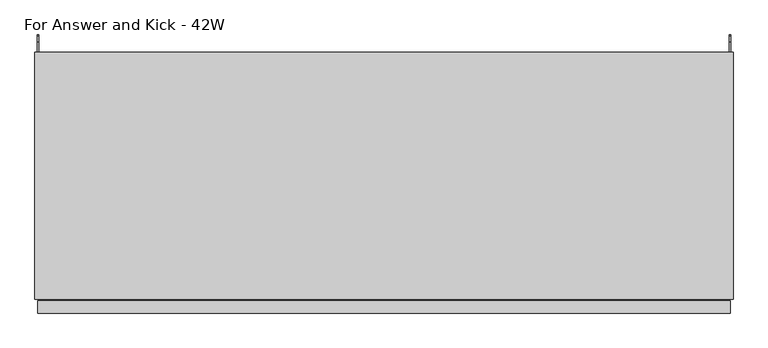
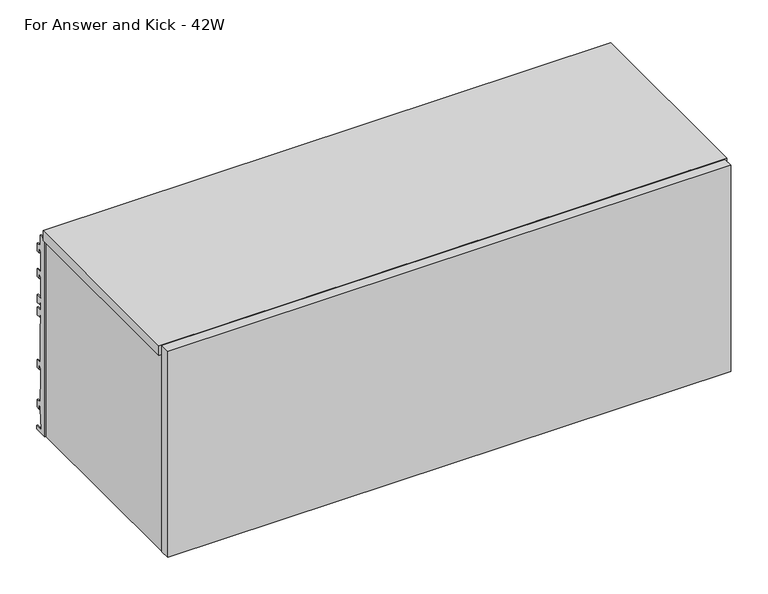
"""IFC4 building model written with IfcOpenShell, lengths in millimetres: furniture geometry, Steelcase - Universal Storage - Over the Case Bin - Flat Front : For Answer and Kick - 42W."""

from ifc_helpers import new_model, si_unit, frame, origin, place, context, project, spatial, polyline, outline, extrude, source, transform, mapped, element, save


def for_answer_and_kick_42w_8e2a54b5(model_context):
    return source(origin(), model_context, "Body", "SweptSolid", [
        extrude(outline(polyline([(0.0, 1657.096), (15.428165, 1657.096), (15.428165, 1635.9725192), (24.6737648, 1635.9725192), (24.6737648, 1620.2499324), (17.7141651, 1620.2499324), (17.7141651, 1627.4034202), (15.428165, 1627.4034202), (13.3707653, 1623.8398995), (13.3707653, 1584.7332049), (24.4959651, 1584.7332049), (24.4959651, 1569.0106181), (17.7141651, 1569.0106181), (17.7141651, 1576.1734076), (15.428165, 1576.1734076), (13.3707653, 1572.6099624), (13.3707653, 1533.4938907), (24.6737648, 1533.4938907), (24.6737648, 1517.7713038), (17.5768, 1517.7713038), (17.5768, 1524.9340934), (15.4248855, 1524.9340934), (13.3349998, 1521.3219111), (13.3349998, 1508.4166423), (24.6737648, 1508.4166423), (24.6737648, 1492.6940555), (17.5768, 1492.6940555), (17.5768, 1499.856845), (15.4205129, 1499.856845), (13.3933344, 1496.3530466), (13.3933344, 1483.6530466), (15.428165, 1479.2893385), (15.428165, 1403.8551467), (24.6737648, 1403.8551467), (24.6737648, 1388.1325599), (17.7141651, 1388.1325599), (17.7141651, 1395.2982562), (15.428165, 1395.2982562), (13.3306079, 1391.6651808), (13.3306079, 1353.5651808), (15.428165, 1349.9321054), (15.428165, 1325.1000701), (24.6737648, 1325.1000701), (24.6737648, 1309.3774833), (17.7141651, 1309.3774833), (17.7141651, 1316.5328605), (15.428165, 1316.5328605), (15.428165, 1303.5355433), (13.2046809, 1299.684356), (13.2046809, 1282.9679719), (11.2879653, 1282.9679719), (11.2879653, 1271.9303504), (26.4009645, 1271.9303504), (26.4009645, 1265.428), (0.0, 1265.428), (0.0, 1657.096)])), frame((1061.2882, 0.0, 0.0), z_axis=(1.0, 0.0, 0.0), x_axis=(0.0, 1.0, 0.0)), (0.0, 0.0, 1.0), 1.905),
        extrude(outline(polyline([(0.0, 1657.096), (15.428165, 1657.096), (15.428165, 1635.9725192), (24.6737648, 1635.9725192), (24.6737648, 1620.2499324), (17.7141651, 1620.2499324), (17.7141651, 1627.4034202), (15.428165, 1627.4034202), (13.3707653, 1623.8398995), (13.3707653, 1584.7332049), (24.4959651, 1584.7332049), (24.4959651, 1569.0106181), (17.7141651, 1569.0106181), (17.7141651, 1576.1734076), (15.428165, 1576.1734076), (13.3707653, 1572.6099624), (13.3707653, 1533.4938907), (24.6737648, 1533.4938907), (24.6737648, 1517.7713038), (17.5768, 1517.7713038), (17.5768, 1524.9340934), (15.4248855, 1524.9340934), (13.3349998, 1521.3219111), (13.3349998, 1508.4166423), (24.6737648, 1508.4166423), (24.6737648, 1492.6940555), (17.5768, 1492.6940555), (17.5768, 1499.856845), (15.4205129, 1499.856845), (13.3933344, 1496.3530466), (13.3933344, 1483.6530466), (15.428165, 1479.2893385), (15.428165, 1403.8551467), (24.6737648, 1403.8551467), (24.6737648, 1388.1325599), (17.7141651, 1388.1325599), (17.7141651, 1395.2982562), (15.428165, 1395.2982562), (13.3306079, 1391.6651808), (13.3306079, 1353.5651808), (15.428165, 1349.9321054), (15.428165, 1325.1000701), (24.6737648, 1325.1000701), (24.6737648, 1309.3774833), (17.7141651, 1309.3774833), (17.7141651, 1316.5328605), (15.428165, 1316.5328605), (15.428165, 1303.5355433), (13.2046809, 1299.684356), (13.2046809, 1282.9679719), (11.2879653, 1282.9679719), (11.2879653, 1271.9303504), (26.4009645, 1271.9303504), (26.4009645, 1265.428), (0.0, 1265.428), (0.0, 1657.096)])), frame((3.6068, 0.0, 0.0), z_axis=(1.0, 0.0, 0.0), x_axis=(0.0, 1.0, 0.0)), (0.0, 0.0, 1.0), 1.905),
        extrude(outline(polyline([(4.4448587, -379.476), (1062.3703, -379.476), (1062.3703, -398.526), (4.4448587, -398.526), (4.4448587, -379.476)])), frame((0.0, 0.0, 1266.8226746), z_axis=(0.0, 0.0, 1.0), x_axis=(1.0, 0.0, 0.0)), (0.0, 0.0, 1.0), 409.5773254),
        extrude(outline(polyline([(1066.8, -377.213238), (0.0, -377.213238), (0.0, 0.0), (1066.8, 0.0), (1066.8, -377.213238)])), frame((0.0, 0.0, 1657.35), z_axis=(0.0, 0.0, 1.0), x_axis=(1.0, 0.0, 0.0)), (0.0, 0.0, 1.0), 19.05),
        extrude(outline(polyline([(15.875, -377.213238), (5.5118, -377.213238), (5.5118, 0.0), (15.875, 0.0), (15.875, -377.213238)])), frame((0.0, 0.0, 1265.428), z_axis=(0.0, 0.0, 1.0), x_axis=(1.0, 0.0, 0.0)), (0.0, 0.0, 1.0), 391.6679457),
        extrude(outline(polyline([(1065.6568665, -377.213238), (1050.925, -377.213238), (1050.925, 0.0), (1065.6568665, 0.0), (1065.6568665, -377.213238)])), frame((0.0, 0.0, 1265.428), z_axis=(0.0, 0.0, 1.0), x_axis=(1.0, 0.0, 0.0)), (0.0, 0.0, 1.0), 391.6679457),
        extrude(outline(polyline([(-35.4584098, 1372.819257), (-27.0763996, 1372.819257), (-27.0763996, 1360.1191601), (-33.4264117, 1360.1191601), (-33.4264117, 1323.1622589), (-27.0763996, 1323.1622589), (-27.0763996, 1265.428), (-35.4584098, 1265.428), (-35.4584098, 1293.054213), (-46.1263996, 1293.054213), (-46.1263996, 1268.1875622), (-59.9694137, 1268.1875622), (-59.9694137, 1294.8575912), (-332.8542818, 1294.8575912), (-332.8542818, 1268.1875622), (-377.3042823, 1268.1875622), (-377.3042823, 1310.7072052), (-35.4584098, 1310.7072052), (-35.4584098, 1372.819257)])), frame((15.875, 0.0, 0.0), z_axis=(1.0, 0.0, 0.0), x_axis=(0.0, 1.0, 0.0)), (0.0, 0.0, 1.0), 1035.05),
    ])


if __name__ == "__main__":
    model = new_model("IFC4")
    model_context = context("Model", 3, world=origin())
    ifc_project = project(units=[si_unit("LENGTHUNIT", "METRE", prefix="MILLI")], contexts=[model_context])
    site = spatial("IfcSite", under=ifc_project)
    building = spatial("IfcBuilding", under=site)
    placement = place(None, origin())
    for_answer_and_kick_42w_shape = for_answer_and_kick_42w_8e2a54b5(model_context)
    element("IfcFurniture", 1, ObjectType="Steelcase - Universal Storage - Over the Case Bin - Flat Front : For Answer and Kick - 42W", at=placement, inside=building, context=model_context, shape_type="MappedRepresentation", body=[
        mapped(for_answer_and_kick_42w_shape, transform((0.0, 0.0, 0.0), x_axis=(1.0, 0.0, 0.0), y_axis=(0.0, 1.0, 0.0), z_axis=(0.0, 0.0, 1.0))),
    ])
    save(model, "model.ifc")
